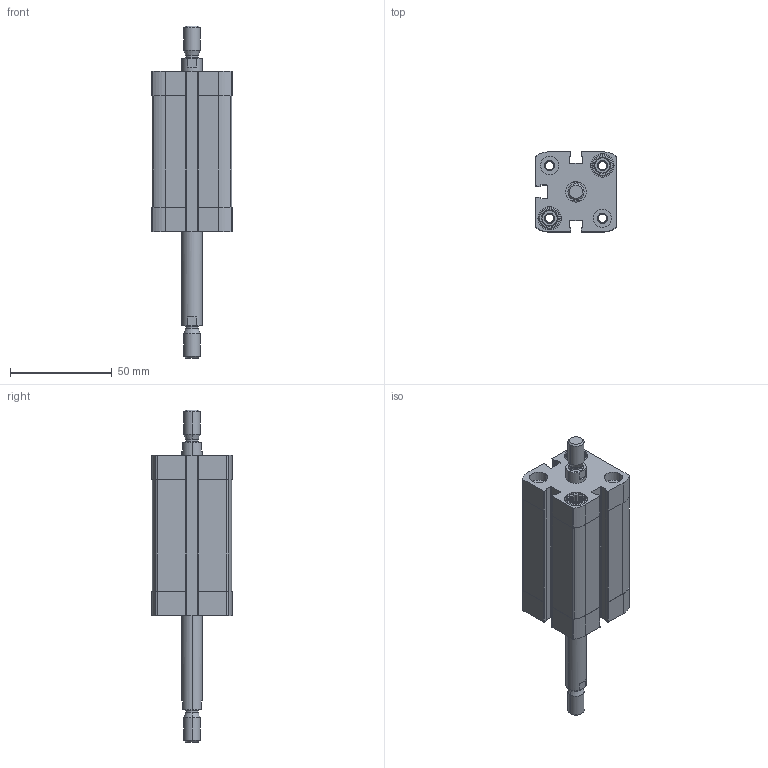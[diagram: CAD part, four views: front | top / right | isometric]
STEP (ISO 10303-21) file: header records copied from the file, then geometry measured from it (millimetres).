
FILE_DESCRIPTION (( 'STEP AP203' ), '1' );
FILE_NAME ('CCN25-40-P.STEP', '2020-06-22T18:43:35', ( '' ), ( '' ), 'SwSTEP 2.0', 'SolidWorks 2019', '' );
FILE_SCHEMA (( 'CONFIG_CONTROL_DESIGN' ));
Length unit declared in the file: millimetre
Products named in the file (1): CCN25-40-P
Bounding box: 39.5 x 39.5 x 163.5 mm (x, y, z)
Volume: 92929.8 mm3; surface area: 36390.9 mm2
Topology: 2 solids, 2 shells, 428 faces, 1120 edges, 728 vertices
Faces by surface type: plane 236, cylinder 140, cone 44, torus 8
Entity records: 13423 total; most frequent: CARTESIAN_POINT 2577, DIRECTION 2314, ORIENTED_EDGE 2240, EDGE_CURVE 1120, AXIS2_PLACEMENT_3D 865, VERTEX_POINT 728, VECTOR 584, LINE 584
